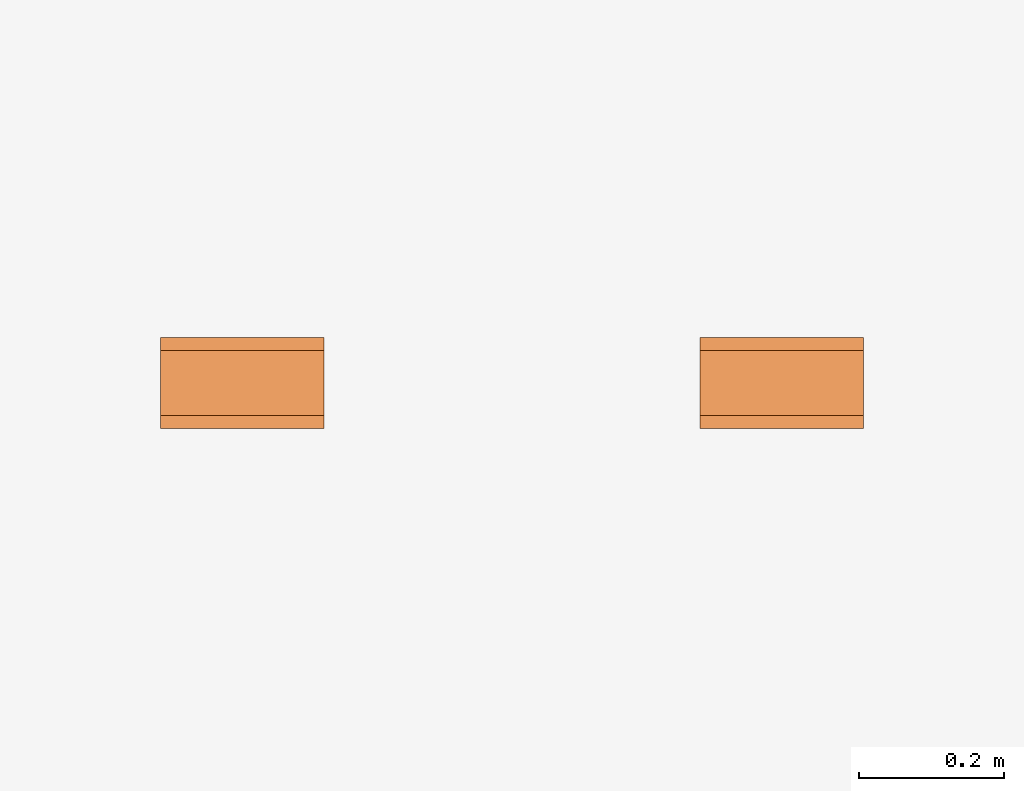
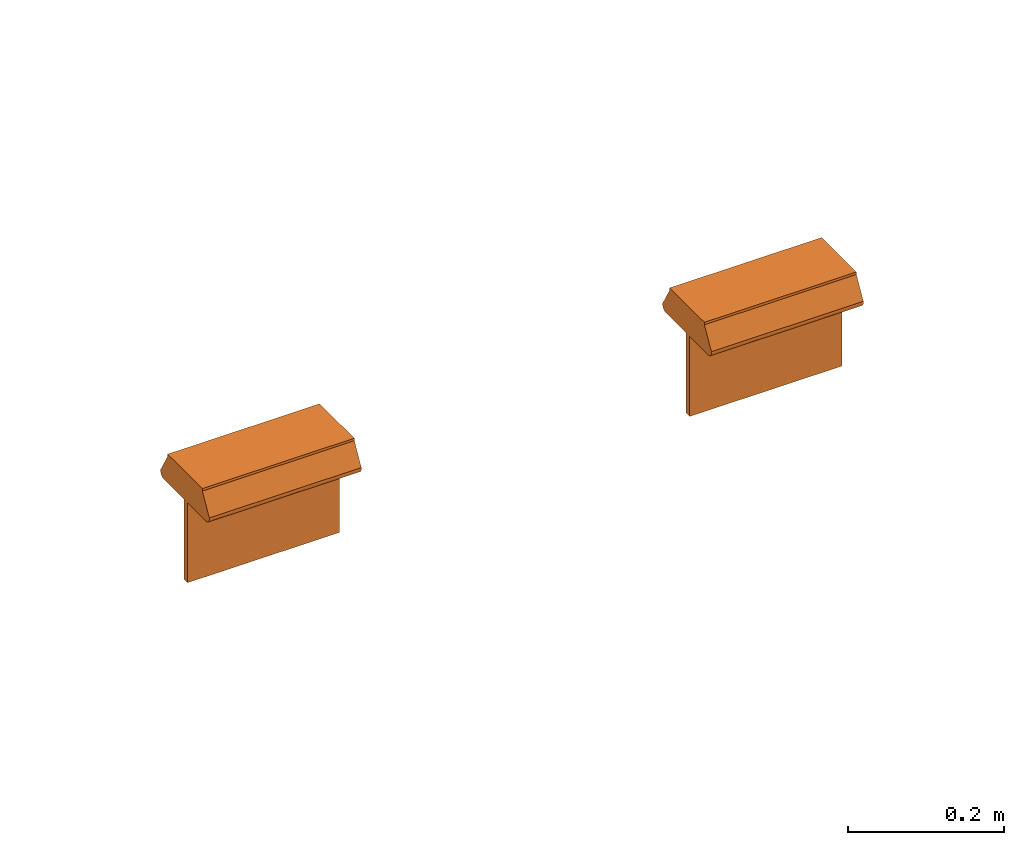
# One storey, part 54 of 197: 2 proxies.
"""IFC2X3 building model written with IfcOpenShell, lengths in metres."""

from ifc_helpers import new_model, entity, si_unit, converted_unit, direction, frame, frame_2d, origin, place, context, subcontext, project, spatial, polyline, circle_curve, parameter, trimmed, segment, composite_curve, circle, outline, extrude, source, transform, mapped, material, material_list, type_object, type_shapes, element, save


model = new_model("IFC2X3")

# Units and contexts
model_context = context("Model", 3, precision=1e-05, world=origin(), true_north=direction((6.123031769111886e-17, 1.0)))
body_context = subcontext(model_context, "Body", "Model", "MODEL_VIEW")
ifc_project = project(units=[si_unit("LENGTHUNIT", "METRE"), converted_unit("PLANEANGLEUNIT", "DEGREE", entity("IfcPlaneAngleMeasure", 0.017453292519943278), si_unit("PLANEANGLEUNIT", "RADIAN"), dimensions=[0, 0, 0, 0, 0, 0, 0]), si_unit("AREAUNIT", "SQUARE_METRE")], contexts=[model_context])

# Site, building, storey
site_placement = place(None, origin())
site = spatial("IfcSite", under=ifc_project, at=site_placement, Name="Default", CompositionType="ELEMENT")
building_placement = place(site_placement, origin())
building = spatial("IfcBuilding", under=site, at=building_placement, CompositionType="ELEMENT")
storey_placement = place(building_placement, origin())
storey = spatial("IfcBuildingStorey", under=building, at=storey_placement, Name="Niveau 0", CompositionType="ELEMENT", Elevation=0.0)

# Proxies
ifc_material_1 = material(Name="BETCE-ENVELOPPE-BLANC")
ifc_material_2 = material(Name="BETCE-ETIQUETTE-VERT 0-193-0")
ifc_material_3 = material(Name="BETCE-VITRE BAES-BLEU")
ifc_material_list_1 = material_list([ifc_material_1, ifc_material_2, ifc_material_3])
building_element_proxy_type_1 = type_object("IfcBuildingElementProxyType", Name="Eclairage de sécurité saillie plafond:GAUCHE", PredefinedType="NOTDEFINED", material=ifc_material_list_1)
shared_shape_1 = source(origin(), body_context, "Body", "SweptSolid", [
    extrude(outline(polyline([(-0.02895906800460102, -0.033302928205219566), (0.012231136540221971, -0.033302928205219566), (0.029966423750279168, -0.012907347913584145), (0.003103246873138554, -0.012907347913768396), (0.03240502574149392, 0.02078969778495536), (0.016088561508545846, 0.03497792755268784), (-0.013213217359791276, 0.0012808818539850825), (-0.016943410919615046, 0.027883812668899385), (-0.03467869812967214, 0.0074882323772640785), (-0.02895906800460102, -0.033302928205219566)])), frame((-0.045353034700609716, -0.004999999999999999, -0.10750000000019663), z_axis=(0.0, 1.0, 0.0), x_axis=(0.6561787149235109, 0.0, 0.7546055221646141)), (0.0, 0.0, 1.0), 0.009999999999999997),
    extrude(outline(composite_curve([segment(trimmed(circle_curve(frame_2d((-0.022195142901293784, -0.014780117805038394), x_axis=(-0.7432901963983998, 0.6689691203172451)), 0.0006000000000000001), [parameter(89.9999999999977)], [parameter(173.97510158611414)], True, "PARAMETER"), True, "CONTINUOUS"), segment(polyline([(-0.021793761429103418, -0.015226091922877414), (-0.011129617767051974, -0.005628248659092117)]), True, "CONTINUOUS"), segment(trimmed(circle_curve(frame_2d((-0.0017573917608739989, -0.016041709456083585), x_axis=(-0.7432901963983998, 0.6689691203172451)), 0.014009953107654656), [parameter(330.5560758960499)], [parameter(353.97510158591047)], True, "PARAMETER"), False, "CONTINUOUS"), segment(polyline([(-0.00621870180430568, -0.002761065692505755), (0.005775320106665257, 0.0017351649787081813)]), True, "CONTINUOUS"), segment(polyline([(0.005775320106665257, 0.0017351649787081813), (-0.0004311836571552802, 0.007321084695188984)]), True, "CONTINUOUS"), segment(polyline([(-0.0004311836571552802, 0.007321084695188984), (-0.011567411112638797, 0.004442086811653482)]), True, "CONTINUOUS"), segment(trimmed(circle_curve(frame_2d((-0.012005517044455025, 0.00712627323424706), x_axis=(-0.7432901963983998, 0.6689691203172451)), 0.0027197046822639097), [parameter(57.327733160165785)], [parameter(141.25747905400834)], True, "PARAMETER"), False, "CONTINUOUS"), segment(trimmed(circle_curve(frame_2d((-0.012005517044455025, 0.00712627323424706), x_axis=(-0.7432901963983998, 0.6689691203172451)), 0.0027197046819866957), [parameter(333.39798722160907)], [parameter(57.32773315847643)], True, "PARAMETER"), False, "CONTINUOUS"), segment(polyline([(-0.012998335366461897, 0.00965828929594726), (-0.00021807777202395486, 0.012998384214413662)]), True, "CONTINUOUS"), segment(trimmed(circle_curve(frame_2d((0.00030725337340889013, 0.007536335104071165), x_axis=(-0.7432901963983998, 0.6689691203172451)), 0.0054872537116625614), [parameter(271.8824185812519)], [parameter(317.4812693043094)], True, "PARAMETER"), False, "CONTINUOUS"), segment(polyline([(0.0038420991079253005, 0.011733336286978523), (0.014901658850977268, 0.0017796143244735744)]), True, "CONTINUOUS"), segment(trimmed(circle_curve(frame_2d((0.006209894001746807, -0.007877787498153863), x_axis=(-0.7432901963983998, 0.6689691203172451)), 0.012992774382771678), [parameter(223.55500193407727)], [parameter(269.9999999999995)], True, "PARAMETER"), False, "CONTINUOUS"), segment(polyline([(0.019197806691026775, -0.00752238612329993), (0.017787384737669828, -0.01891582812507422)]), True, "CONTINUOUS"), segment(polyline([(0.017787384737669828, -0.01891582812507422), (0.022127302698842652, -0.022821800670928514)]), True, "CONTINUOUS"), segment(polyline([(0.022127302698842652, -0.022821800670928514), (0.044393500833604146, 0.001918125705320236)]), True, "CONTINUOUS"), segment(polyline([(0.044393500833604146, 0.001918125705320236), (0.00603048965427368, 0.03644524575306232)]), True, "CONTINUOUS"), segment(polyline([(0.00603048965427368, 0.03644524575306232), (-0.032473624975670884, -0.006336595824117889)]), True, "CONTINUOUS"), segment(polyline([(-0.032473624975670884, -0.006336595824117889), (-0.022596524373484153, -0.015226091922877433)]), True, "CONTINUOUS")], self_intersect=False), holes=[composite_curve([segment(trimmed(circle_curve(frame_2d((0.023878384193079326, 0.0026726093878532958), x_axis=(-0.7432901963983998, 0.6689691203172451)), 0.005405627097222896), [parameter(89.99999999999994)], [parameter(179.99999999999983)], True, "PARAMETER"), False, "CONTINUOUS"), segment(trimmed(circle_curve(frame_2d((0.0238783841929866, 0.002672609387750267), x_axis=(-0.7432901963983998, 0.6689691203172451)), 0.005405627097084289), [parameter(359.99999999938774)], [parameter(89.99999999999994)], True, "PARAMETER"), False, "CONTINUOUS"), segment(trimmed(circle_curve(frame_2d((0.023878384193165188, 0.0026726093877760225), x_axis=(-0.7432901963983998, 0.6689691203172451)), 0.005405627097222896), [parameter(270.00000000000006)], [parameter(359.99999999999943)], True, "PARAMETER"), False, "CONTINUOUS"), segment(trimmed(circle_curve(frame_2d((0.023878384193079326, 0.0026726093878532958), x_axis=(-0.7432901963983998, 0.6689691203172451)), 0.005405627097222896), [parameter(180.00000000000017)], [parameter(269.9999999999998)], True, "PARAMETER"), False, "CONTINUOUS")], self_intersect=False)]), frame((0.04975088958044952, -0.004999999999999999, -0.09879549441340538), z_axis=(0.0, 1.0, 0.0), x_axis=(-0.7432901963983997, 0.0, 0.668969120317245)), (0.0, 0.0, 1.0), 0.009999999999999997),
    extrude(outline(composite_curve([segment(polyline([(-0.03194487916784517, -0.010138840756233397), (0.011174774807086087, -0.010138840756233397)]), True, "CONTINUOUS"), segment(polyline([(0.011174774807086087, -0.010138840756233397), (0.011174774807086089, -0.003797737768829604)]), True, "CONTINUOUS"), segment(trimmed(circle_curve(frame_2d((0.013841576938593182, -0.0037977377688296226), x_axis=(0.0, 1.0)), 0.0026668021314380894), [parameter(39.08958312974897)], [parameter(89.99999999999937)], True, "PARAMETER"), False, "CONTINUOUS"), segment(polyline([(0.012160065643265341, -0.0017278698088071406), (0.02014056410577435, 0.004432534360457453)]), True, "CONTINUOUS"), segment(trimmed(circle_curve(frame_2d((0.01977914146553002, 0.0049007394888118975), x_axis=(0.0, 1.0)), 0.0005914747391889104), [parameter(217.66570843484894)], [parameter(322.33429156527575)], True, "PARAMETER"), True, "CONTINUOUS"), segment(polyline([(0.0201405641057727, 0.0053689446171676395), (0.009450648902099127, 0.010543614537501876)]), True, "CONTINUOUS"), segment(trimmed(circle_curve(frame_2d((0.007662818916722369, 0.006850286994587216), x_axis=(0.0, 1.0)), 0.004103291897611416), [parameter(334.16975689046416)], [parameter(29.199181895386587)], True, "PARAMETER"), True, "CONTINUOUS"), segment(polyline([(0.005661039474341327, 0.010432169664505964), (-0.0260126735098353, -0.0024869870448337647)]), True, "CONTINUOUS"), segment(polyline([(-0.0260126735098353, -0.0024869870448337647), (-0.031944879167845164, -0.00248698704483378)]), True, "CONTINUOUS"), segment(polyline([(-0.031944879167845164, -0.00248698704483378), (-0.03194487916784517, -0.010138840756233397)]), True, "CONTINUOUS")], self_intersect=False)), frame((0.02817564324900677, -0.005, -0.11835202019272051), z_axis=(0.0, 1.0, 0.0), x_axis=(0.0, 0.0, 1.0)), (0.0, 0.0, 1.0), 0.009999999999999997),
    extrude(outline(composite_curve([segment(polyline([(-0.018635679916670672, -0.010044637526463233), (0.012872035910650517, -0.01004463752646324)]), True, "CONTINUOUS"), segment(trimmed(circle_curve(frame_2d((0.013032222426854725, -0.009454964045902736), x_axis=(0.42357253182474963, 0.9058621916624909)), 0.0006110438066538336), [parameter(189.86253455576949)], [parameter(270.0000000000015)], True, "PARAMETER"), True, "CONTINUOUS"), segment(trimmed(circle_curve(frame_2d((0.013032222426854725, -0.009454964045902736), x_axis=(0.42357253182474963, 0.9058621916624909)), 0.0006110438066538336), [parameter(270.0000000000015)], [parameter(350.1374654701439)], True, "PARAMETER"), True, "CONTINUOUS"), segment(polyline([(0.013382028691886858, -0.008953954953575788), (0.0016479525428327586, -0.0007611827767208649)]), True, "CONTINUOUS"), segment(trimmed(circle_curve(frame_2d((0.0035475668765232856, 0.0012940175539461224), x_axis=(0.42357253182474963, 0.9058621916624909)), 0.002798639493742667), [parameter(89.99999999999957)], [parameter(162.31324888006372)], True, "PARAMETER"), False, "CONTINUOUS"), segment(polyline([(0.0010123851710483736, 0.0024794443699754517), (0.008443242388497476, 0.018371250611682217)]), True, "CONTINUOUS"), segment(polyline([(0.008443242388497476, 0.018371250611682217), (-0.00827312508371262, 0.026187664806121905)]), True, "CONTINUOUS"), segment(polyline([(-0.00827312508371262, 0.026187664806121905), (-0.024034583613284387, -0.0075201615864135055)]), True, "CONTINUOUS"), segment(polyline([(-0.024034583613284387, -0.0075201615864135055), (-0.018635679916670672, -0.010044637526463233)]), True, "CONTINUOUS")], self_intersect=False)), frame((0.04943108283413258, -0.004999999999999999, -0.13171021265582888), z_axis=(0.0, 1.0, 0.0), x_axis=(0.42357253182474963, 0.0, 0.9058621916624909)), (0.0, 0.0, 1.0), 0.009999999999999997),
    extrude(outline(polyline([(-0.05249999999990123, -0.10250000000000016), (0.052499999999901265, -0.10250000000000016), (0.052499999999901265, 0.10250000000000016), (-0.05249999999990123, 0.10250000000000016), (-0.05249999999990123, -0.10250000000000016)]), holes=[composite_curve([segment(polyline([(0.04279689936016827, -0.018036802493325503), (0.04279689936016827, -0.025688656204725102)]), True, "CONTINUOUS"), segment(polyline([(0.04279689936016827, -0.025688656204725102), (0.036864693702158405, -0.025688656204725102)]), True, "CONTINUOUS"), segment(polyline([(0.036864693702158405, -0.025688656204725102), (0.005190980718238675, -0.038607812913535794)]), True, "CONTINUOUS"), segment(trimmed(circle_curve(frame_2d((0.0031892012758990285, -0.03502593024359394), x_axis=(0.0, -1.0)), 0.004103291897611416), [parameter(334.1697568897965)], [parameter(29.199181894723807)], True, "PARAMETER"), False, "CONTINUOUS"), segment(polyline([(0.0014013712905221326, -0.038719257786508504), (-0.009288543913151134, -0.03354458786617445)]), True, "CONTINUOUS"), segment(trimmed(circle_curve(frame_2d((-0.008927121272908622, -0.03307638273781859), x_axis=(0.0, -1.0)), 0.0005914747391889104), [parameter(217.66570843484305)], [parameter(322.33429156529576)], True, "PARAMETER"), False, "CONTINUOUS"), segment(polyline([(-0.009288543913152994, -0.03260817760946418), (-0.0013080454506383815, -0.026447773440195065)]), True, "CONTINUOUS"), segment(trimmed(circle_curve(frame_2d((-0.0029895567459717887, -0.0243779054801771), x_axis=(0.0, -1.0)), 0.0026668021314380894), [parameter(39.08958312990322)], [parameter(90.00000000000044)], True, "PARAMETER"), True, "CONTINUOUS"), segment(polyline([(-0.0003227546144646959, -0.024377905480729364), (-0.0003227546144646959, -0.018036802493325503)]), True, "CONTINUOUS"), segment(polyline([(-0.0003227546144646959, -0.018036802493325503), (0.04279689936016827, -0.018036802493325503)]), True, "CONTINUOUS")], self_intersect=False), composite_curve([segment(polyline([(0.04279689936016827, -0.03243846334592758), (0.04279689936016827, -0.06964922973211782)]), True, "CONTINUOUS"), segment(polyline([(0.04279689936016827, -0.06964922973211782), (0.024343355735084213, -0.06964922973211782)]), True, "CONTINUOUS"), segment(polyline([(0.024343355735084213, -0.06964922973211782), (0.024343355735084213, -0.05210593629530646)]), True, "CONTINUOUS"), segment(trimmed(circle_curve(frame_2d((0.02154471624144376, -0.05210593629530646), x_axis=(0.0, -1.0)), 0.002798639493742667), [parameter(90.0000000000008)], [parameter(162.31324887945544)], True, "PARAMETER"), True, "CONTINUOUS"), segment(polyline([(0.022394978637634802, -0.04943958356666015), (0.008295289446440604, -0.046988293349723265)]), True, "CONTINUOUS"), segment(trimmed(circle_curve(frame_2d((0.008399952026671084, -0.04638627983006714), x_axis=(0.0, -1.0)), 0.0006110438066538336), [parameter(269.9999999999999)], [parameter(350.1374654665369)], True, "PARAMETER"), False, "CONTINUOUS"), segment(trimmed(circle_curve(frame_2d((0.008399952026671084, -0.04638627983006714), x_axis=(0.0, -1.0)), 0.0006110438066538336), [parameter(189.86253455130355)], [parameter(269.9999999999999)], True, "PARAMETER"), False, "CONTINUOUS"), segment(polyline([(0.008295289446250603, -0.045784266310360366), (0.03683693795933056, -0.03243846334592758)]), True, "CONTINUOUS"), segment(polyline([(0.03683693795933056, -0.03243846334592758), (0.04279689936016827, -0.03243846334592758)]), True, "CONTINUOUS")], self_intersect=False), composite_curve([segment(polyline([(0.017729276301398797, -0.05636087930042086), (0.017729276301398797, -0.06964922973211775)]), True, "CONTINUOUS"), segment(polyline([(0.017729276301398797, -0.06964922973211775), (-0.039828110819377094, -0.06964922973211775)]), True, "CONTINUOUS"), segment(polyline([(-0.039828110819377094, -0.06964922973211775), (-0.039828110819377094, -0.018036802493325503)]), True, "CONTINUOUS"), segment(polyline([(-0.039828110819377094, -0.018036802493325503), (-0.0065437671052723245, -0.018036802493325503)]), True, "CONTINUOUS"), segment(polyline([(-0.0065437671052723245, -0.018036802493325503), (-0.0065437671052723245, -0.023875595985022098)]), True, "CONTINUOUS"), segment(polyline([(-0.0065437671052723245, -0.023875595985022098), (-0.015955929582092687, -0.030449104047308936)]), True, "CONTINUOUS"), segment(trimmed(circle_curve(frame_2d((-0.007003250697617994, -0.03986513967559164), x_axis=(0.0, -1.0)), 0.012992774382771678), [parameter(223.5550019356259)], [parameter(270.00000000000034)], True, "PARAMETER"), True, "CONTINUOUS"), segment(polyline([(-0.019996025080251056, -0.03986513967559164), (-0.019996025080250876, -0.05474433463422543)]), True, "CONTINUOUS"), segment(trimmed(circle_curve(frame_2d((-0.014511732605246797, -0.05456408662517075), x_axis=(0.0, -1.0)), 0.0054872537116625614), [parameter(271.8824185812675)], [parameter(317.4812693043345)], True, "PARAMETER"), True, "CONTINUOUS"), segment(polyline([(-0.018220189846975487, -0.05860850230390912), (-0.007187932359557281, -0.06587352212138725)]), True, "CONTINUOUS"), segment(trimmed(circle_curve(frame_2d((-0.00597007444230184, -0.06344172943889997), x_axis=(0.0, -1.0)), 0.0027197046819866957), [parameter(333.3979871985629)], [parameter(57.32773315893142)], True, "PARAMETER"), True, "CONTINUOUS"), segment(trimmed(circle_curve(frame_2d((-0.005970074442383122, -0.06344172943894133), x_axis=(0.0, -1.0)), 0.0027197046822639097), [parameter(57.32773315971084)], [parameter(141.25747905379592)], True, "PARAMETER"), True, "CONTINUOUS"), segment(polyline([(-0.004268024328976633, -0.061320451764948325), (-0.01385774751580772, -0.054968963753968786)]), True, "CONTINUOUS"), segment(polyline([(-0.01385774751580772, -0.054968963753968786), (-0.01385774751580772, -0.04661892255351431)]), True, "CONTINUOUS"), segment(polyline([(-0.01385774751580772, -0.04661892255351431), (-0.0024921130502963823, -0.052526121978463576)]), True, "CONTINUOUS"), segment(trimmed(circle_curve(frame_2d((0.004394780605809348, -0.04032573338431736), x_axis=(0.0, -1.0)), 0.014009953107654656), [parameter(330.55607589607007)], [parameter(353.9751015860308)], True, "PARAMETER"), True, "CONTINUOUS"), segment(polyline([(0.0029242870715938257, -0.05425830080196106), (0.01719225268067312, -0.05576419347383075)]), True, "CONTINUOUS"), segment(trimmed(circle_curve(frame_2d((0.01712927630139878, -0.05636087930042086), x_axis=(0.0, -1.0)), 0.0006000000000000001), [parameter(90.00000000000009)], [parameter(173.9751015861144)], True, "PARAMETER"), False, "CONTINUOUS")], self_intersect=False), polyline([(0.0, 0.08948593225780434), (0.031082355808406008, 0.06245779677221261), (0.031082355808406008, 0.03542966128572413), (0.010811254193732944, 0.05305670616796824), (0.010811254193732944, 0.008401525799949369), (-0.010811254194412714, 0.008401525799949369), (-0.010811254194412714, 0.053056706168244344), (-0.031082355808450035, 0.03542966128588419), (-0.031082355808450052, 0.06245779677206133), (0.0, 0.08948593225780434)])]), frame((0.0, -0.005, -0.10750000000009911), z_axis=(0.0, 1.0, 0.0), x_axis=(0.0, 0.0, -1.0)), (0.0, 0.0, 1.0), 0.01),
    extrude(circle(Radius=0.005405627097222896, at=frame_2d((2.8873636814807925e-14, 0.0), x_axis=(1.0, 0.0))), frame((0.0337902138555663, -0.005, -0.08083506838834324), z_axis=(0.0, 1.0, 0.0), x_axis=(1.0, 0.0, 0.0)), (0.0, 0.0, 1.0), 0.01),
    extrude(outline(polyline([(-0.06250000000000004, -0.11175180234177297), (0.062499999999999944, -0.11175180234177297), (0.06249999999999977, -5.459731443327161e-05), (0.0625000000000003, 0.11324819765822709), (-0.06249999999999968, 0.1132481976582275), (-0.06250000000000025, -0.0029381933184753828), (-0.06250000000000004, -0.11175180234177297)]), holes=[polyline([(0.052499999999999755, 0.001302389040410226), (0.05249999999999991, -0.10175180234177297), (-0.05250000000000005, -0.10175180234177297), (-0.05250000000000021, -0.0022597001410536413), (-0.05249999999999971, 0.10324819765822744), (0.05250000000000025, 0.10324819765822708), (0.052499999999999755, 0.001302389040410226)])]), frame((-0.0007481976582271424, -0.005, -0.10750000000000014), z_axis=(0.0, 1.0, 0.0), x_axis=(0.0, 0.0, 1.0)), (0.0, 0.0, 1.0), 0.01),
    extrude(outline(composite_curve([segment(trimmed(circle_curve(frame_2d((-0.001999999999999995, -0.05449999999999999), x_axis=(1.0, 0.0)), 0.008), [parameter(269.9999999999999)], [parameter(0.0)], True, "PARAMETER"), True, "CONTINUOUS"), segment(polyline([(0.006000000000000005, -0.05449999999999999), (0.006000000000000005, 0.054500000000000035)]), True, "CONTINUOUS"), segment(trimmed(circle_curve(frame_2d((-0.001999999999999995, 0.05450000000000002), x_axis=(1.0, 0.0)), 0.008), [parameter(359.99999999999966)], [parameter(89.99999999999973)], True, "PARAMETER"), True, "CONTINUOUS"), segment(polyline([(-0.0019999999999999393, 0.06250000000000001), (-0.00399999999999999, 0.06250000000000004)]), True, "CONTINUOUS"), segment(polyline([(-0.00399999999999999, 0.06250000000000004), (-0.00399999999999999, -0.0625)]), True, "CONTINUOUS"), segment(polyline([(-0.00399999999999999, -0.0625), (-0.001999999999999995, -0.0625)]), True, "CONTINUOUS")], self_intersect=False)), frame((-0.1125, 0.0019999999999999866, -0.039), z_axis=(1.0, 0.0, 0.0), x_axis=(0.0, 0.0, -1.0)), (0.0, 0.0, 1.0), 0.22499999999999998),
    extrude(outline(polyline([(-0.06250000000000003, -0.02205897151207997), (0.06250000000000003, -0.02205897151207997), (0.044499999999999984, 0.00911794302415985), (0.044499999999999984, 0.012941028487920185), (-0.044499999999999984, 0.012941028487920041), (-0.04449999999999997, 0.009117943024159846), (-0.06250000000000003, -0.02205897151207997)])), frame((-0.11249999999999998, 0.002000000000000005, -0.012941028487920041), z_axis=(1.0, 0.0, 0.0), x_axis=(0.0, 1.0, 0.0)), (0.0, 0.0, 1.0), 0.225),
])
type_shapes(building_element_proxy_type_1, [shared_shape_1])
proxy_1_placement = place(storey_placement, frame((-486.98197282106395, 108.51998673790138, 1.4999999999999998)))
element("IfcBuildingElementProxy", 1, at=proxy_1_placement, inside=storey, type_object=building_element_proxy_type_1, material=ifc_material_list_1, Name="Eclairage de sécurité saillie plafond:GAUCHE", ObjectType="Eclairage de sécurité saillie plafond:GAUCHE", context=body_context, shape_type="MappedRepresentation", body=[
    mapped(shared_shape_1, transform((0.0, 0.0, 0.0), scale=1.0)),
])
ifc_material_4 = material(Name="BETCE-ETIQUETTE-BLANC")
ifc_material_list_2 = material_list([ifc_material_4, ifc_material_2, ifc_material_3, ifc_material_1])
building_element_proxy_type_2 = type_object("IfcBuildingElementProxyType", Name="Eclairage de sécurité saillie plafond:GAUCHE/DROITE", PredefinedType="NOTDEFINED", material=ifc_material_list_2)
shared_shape_2 = source(origin(), body_context, "Body", "SweptSolid", [
    extrude(outline(polyline([(-0.028959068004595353, -0.03330292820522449), (0.012231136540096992, -0.033302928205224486), (0.029966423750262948, -0.012907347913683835), (0.0031032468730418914, -0.012907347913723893), (0.0324050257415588, 0.020789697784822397), (0.016088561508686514, 0.034977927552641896), (-0.013213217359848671, 0.0012808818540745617), (-0.016943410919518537, 0.027883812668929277), (-0.03467869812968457, 0.00748823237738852), (-0.028959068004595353, -0.03330292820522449)])), frame((0.04540226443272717, -0.004999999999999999, -0.10750000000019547), z_axis=(0.0, 1.0, 0.0), x_axis=(-0.6561787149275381, 0.0, -0.7546055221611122)), (0.0, 0.0, 1.0), 0.01),
    extrude(outline(polyline([(-0.028959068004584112, -0.033302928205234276), (0.012231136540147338, -0.033302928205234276), (0.02996642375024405, -0.012907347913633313), (0.0031032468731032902, -0.012907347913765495), (0.03240502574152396, 0.020789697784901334), (0.016088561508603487, 0.03497792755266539), (-0.013213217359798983, 0.0012808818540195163), (-0.01694341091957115, 0.027883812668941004), (-0.03467869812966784, 0.007488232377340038), (-0.028959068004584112, -0.033302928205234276)])), frame((-0.044293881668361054, -0.004999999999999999, -0.107500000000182), z_axis=(0.0, 1.0, 0.0), x_axis=(0.6561787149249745, 0.0, 0.7546055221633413)), (0.0, 0.0, 1.0), 0.01),
    extrude(outline(polyline([(-0.052499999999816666, -0.1025000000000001), (0.05249999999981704, -0.1025000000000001), (0.05249999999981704, 0.1025000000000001), (-0.052499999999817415, 0.1025000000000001), (-0.052499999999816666, -0.1025000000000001)]), holes=[polyline([(0.0, -0.08953516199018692), (-0.031082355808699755, -0.06250702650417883), (-0.031082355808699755, -0.035478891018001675), (-0.010811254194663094, -0.05310593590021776), (-0.010811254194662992, -0.008450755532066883), (0.010811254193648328, -0.008450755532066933), (0.010811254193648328, -0.05310593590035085), (0.031082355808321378, -0.03547889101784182), (0.031082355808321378, -0.06250702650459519), (0.0, -0.08953516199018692)]), polyline([(0.0, 0.08842677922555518), (0.03108235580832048, 0.06139864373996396), (0.031082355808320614, 0.03437050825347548), (0.010811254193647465, 0.05199755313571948), (0.010811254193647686, 0.007342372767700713), (-0.010811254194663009, 0.007342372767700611), (-0.010811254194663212, 0.051997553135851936), (-0.03108235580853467, 0.03437050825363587), (-0.031082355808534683, 0.06139864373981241), (0.0, 0.08842677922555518)])]), frame((0.0, -0.005, -0.10750000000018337), z_axis=(0.0, 1.0, 0.0), x_axis=(0.0, 0.0, -1.0)), (0.0, 0.0, 1.0), 0.01),
    extrude(outline(polyline([(-0.06250000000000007, -0.11175180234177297), (0.062499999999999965, -0.11175180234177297), (0.062499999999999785, -5.459731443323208e-05), (0.06250000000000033, 0.11324819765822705), (-0.0624999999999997, 0.11324819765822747), (-0.06250000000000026, -0.0029381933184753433), (-0.06250000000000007, -0.11175180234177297)]), holes=[polyline([(0.052499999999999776, 0.0013023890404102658), (0.05249999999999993, -0.10175180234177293), (-0.05250000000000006, -0.10175180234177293), (-0.052500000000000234, -0.0022597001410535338), (-0.05249999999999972, 0.10324819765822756), (0.05250000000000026, 0.10324819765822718), (0.052499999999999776, 0.0013023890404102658)])]), frame((-0.0007481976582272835, -0.005, -0.10750000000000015), z_axis=(0.0, 1.0, 0.0), x_axis=(0.0, 0.0, 1.0)), (0.0, 0.0, 1.0), 0.01),
    extrude(outline(composite_curve([segment(trimmed(circle_curve(frame_2d((-0.001999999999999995, -0.05449999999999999), x_axis=(1.0, 0.0)), 0.008), [parameter(269.9999999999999)], [parameter(0.0)], True, "PARAMETER"), True, "CONTINUOUS"), segment(polyline([(0.006000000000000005, -0.05449999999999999), (0.006000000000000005, 0.054500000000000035)]), True, "CONTINUOUS"), segment(trimmed(circle_curve(frame_2d((-0.001999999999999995, 0.05450000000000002), x_axis=(1.0, 0.0)), 0.008), [parameter(359.99999999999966)], [parameter(89.99999999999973)], True, "PARAMETER"), True, "CONTINUOUS"), segment(polyline([(-0.0019999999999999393, 0.06250000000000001), (-0.00399999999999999, 0.06250000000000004)]), True, "CONTINUOUS"), segment(polyline([(-0.00399999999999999, 0.06250000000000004), (-0.00399999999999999, -0.0625)]), True, "CONTINUOUS"), segment(polyline([(-0.00399999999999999, -0.0625), (-0.001999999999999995, -0.0625)]), True, "CONTINUOUS")], self_intersect=False)), frame((-0.1125, 0.0019999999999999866, -0.039), z_axis=(1.0, 0.0, 0.0), x_axis=(0.0, 0.0, -1.0)), (0.0, 0.0, 1.0), 0.22499999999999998),
    extrude(outline(polyline([(-0.06250000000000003, -0.02205897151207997), (0.06250000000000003, -0.02205897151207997), (0.044499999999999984, 0.00911794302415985), (0.044499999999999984, 0.012941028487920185), (-0.044499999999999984, 0.012941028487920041), (-0.04449999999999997, 0.009117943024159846), (-0.06250000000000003, -0.02205897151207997)])), frame((-0.11249999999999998, 0.002000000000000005, -0.012941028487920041), z_axis=(1.0, 0.0, 0.0), x_axis=(0.0, 1.0, 0.0)), (0.0, 0.0, 1.0), 0.225),
])
type_shapes(building_element_proxy_type_2, [shared_shape_2])
proxy_2_placement = place(storey_placement, frame((-486.2389728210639, 108.51998673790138, 1.4999999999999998)))
element("IfcBuildingElementProxy", 2, at=proxy_2_placement, inside=storey, type_object=building_element_proxy_type_2, material=ifc_material_list_2, Name="Eclairage de sécurité saillie plafond:GAUCHE/DROITE", ObjectType="Eclairage de sécurité saillie plafond:GAUCHE/DROITE", context=body_context, shape_type="MappedRepresentation", body=[
    mapped(shared_shape_2, transform((0.0, 0.0, 0.0), scale=1.0)),
])

save(model, "model.ifc")
